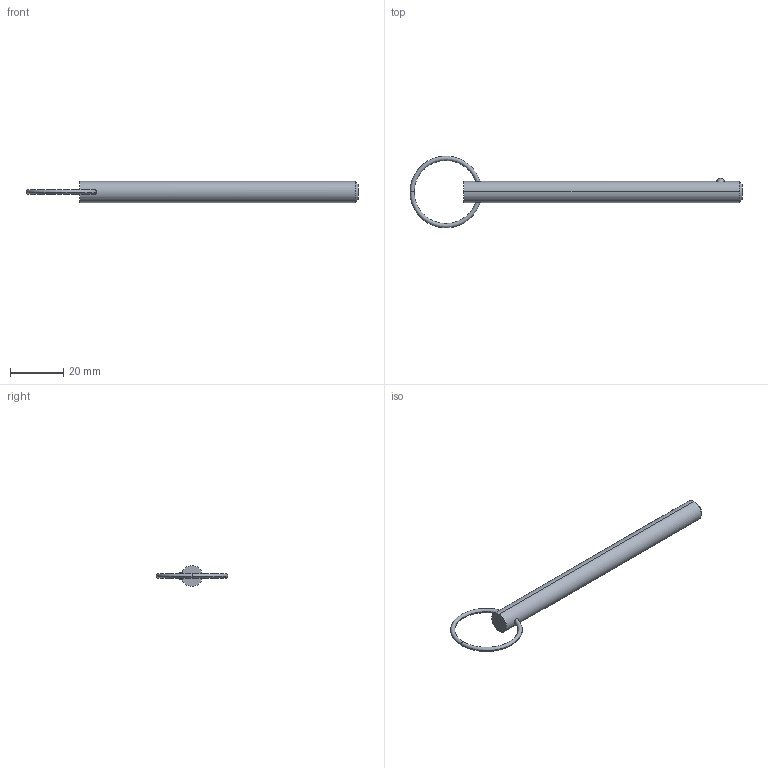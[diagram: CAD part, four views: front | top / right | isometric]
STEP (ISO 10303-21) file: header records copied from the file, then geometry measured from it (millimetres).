
FILE_DESCRIPTION (( 'STEP AP203' ), '1' );
FILE_NAME ('33012.W3135.step', '2024-11-01T14:08:42', ( '' ), ( '' ), 'SwSTEP 2.0', 'SolidWorks 2019', '' );
FILE_SCHEMA (( 'CONFIG_CONTROL_DESIGN' ));
Length unit declared in the file: millimetre
Products named in the file (3): Part2_33012.W3135; 33012.W3135; Part1_33012.W3135
Assembly tree (2 placements, depth 2):
  33012.W3135
    Part1_33012.W3135
    Part2_33012.W3135
Bounding box: 125.03 x 26.99 x 7.94 mm (x, y, z)
Volume: 5315.5 mm3; surface area: 3143.2 mm2
Topology: 2 solids, 2 shells, 16 faces, 31 edges, 18 vertices
Faces by surface type: torus 8, sphere 2, cone 2, cylinder 2, plane 2
Entity records: 827 total; most frequent: CARTESIAN_POINT 184, DIRECTION 88, ORIENTED_EDGE 62, AXIS2_PLACEMENT_3D 42, EDGE_CURVE 31, PERSON_AND_ORGANIZATION 26, CIRCLE 21, EDGE_LOOP 19
